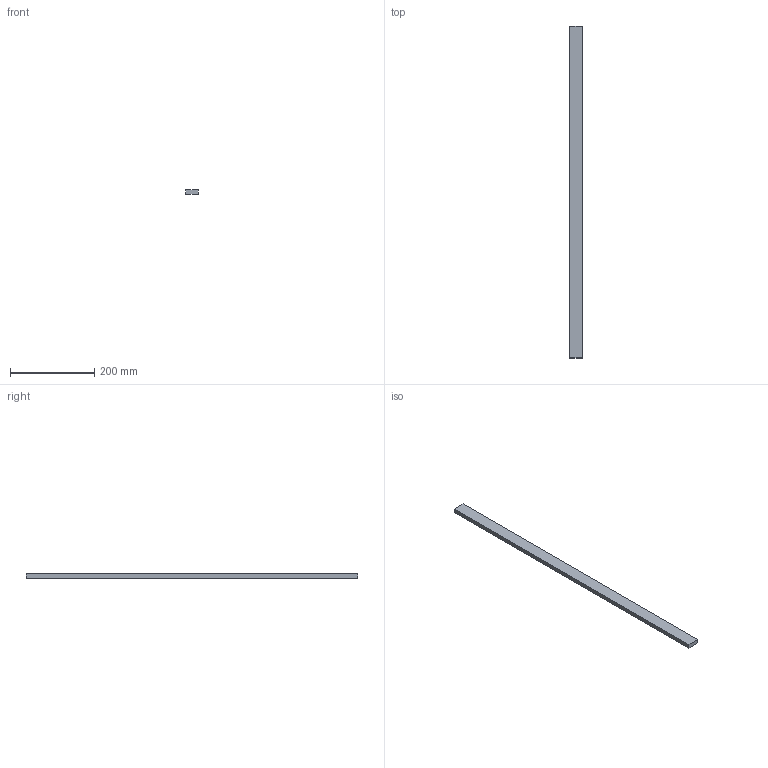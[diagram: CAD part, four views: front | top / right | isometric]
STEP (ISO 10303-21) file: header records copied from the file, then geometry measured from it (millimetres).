
FILE_DESCRIPTION (( 'STEP AP203' ), '1' );
FILE_NAME ('DN51393.STEP', '2025-10-31T07:36:53', ( '' ), ( '' ), 'SwSTEP 2.0', 'SolidWorks 2019', '' );
FILE_SCHEMA (( 'CONFIG_CONTROL_DESIGN' ));
Length unit declared in the file: millimetre
Products named in the file (1): DN51393
Bounding box: 30 x 790 x 10 mm (x, y, z)
Volume: 237000 mm3; surface area: 63800 mm2
Topology: 1 solids, 1 shells, 6 faces, 12 edges, 8 vertices
Faces by surface type: plane 6
Entity records: 233 total; most frequent: CARTESIAN_POINT 27, DIRECTION 26, ORIENTED_EDGE 24, LINE 12, VECTOR 12, EDGE_CURVE 12, VERTEX_POINT 8, PERSON_AND_ORGANIZATION 8
